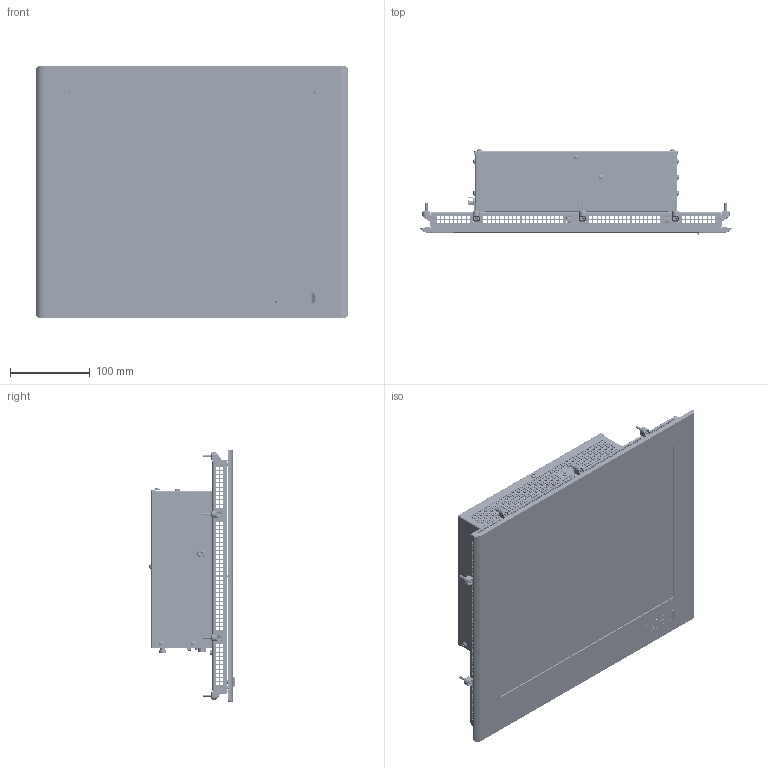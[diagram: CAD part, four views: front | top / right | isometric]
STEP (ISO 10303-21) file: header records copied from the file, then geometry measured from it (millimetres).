
FILE_DESCRIPTION((''),'2;1');
FILE_NAME('C6E22-Panel_150_RES_S1','2017-03-07T',('manpal'),(''),'PRO/ENGINEER BY PARAMETRIC TECHNOLOGY CORPORATION, 2013410','PRO/ENGINEER BY PARAMETRIC TECHNOLOGY CORPORATION, 2013410','');
FILE_SCHEMA(('AUTOMOTIVE_DESIGN { 1 0 10303 214 1 1 1 1 }'));
Products named in the file (3): C6E22-Panel_150_RES_S1_; C6E22-Panel_150_RES_S1__
Assembly tree (2 placements, depth 2):
  C6E22-Panel_150_RES_S1__
    C6E22-Panel_150_RES_S1_
    C6E22-Panel_150_RES_S1_
Bounding box: 390 x 107.32 x 315 mm (x, y, z)
Surface area: 830664 mm2 (no closed solid volume)
Topology: 0 solids, 365 shells, 7288 faces, 27912 edges, 20775 vertices
Faces by surface type: plane 5957, cylinder 754, cone 296, bspline 189, torus 46, sphere 42, extrusion 4
Entity records: 324690 total; most frequent: CARTESIAN_POINT 74241, DIRECTION 43901, ORIENTED_EDGE 43551, EDGE_CURVE 27868, VECTOR 23339, LINE 23335, VERTEX_POINT 20775, AXIS2_PLACEMENT_3D 10281
